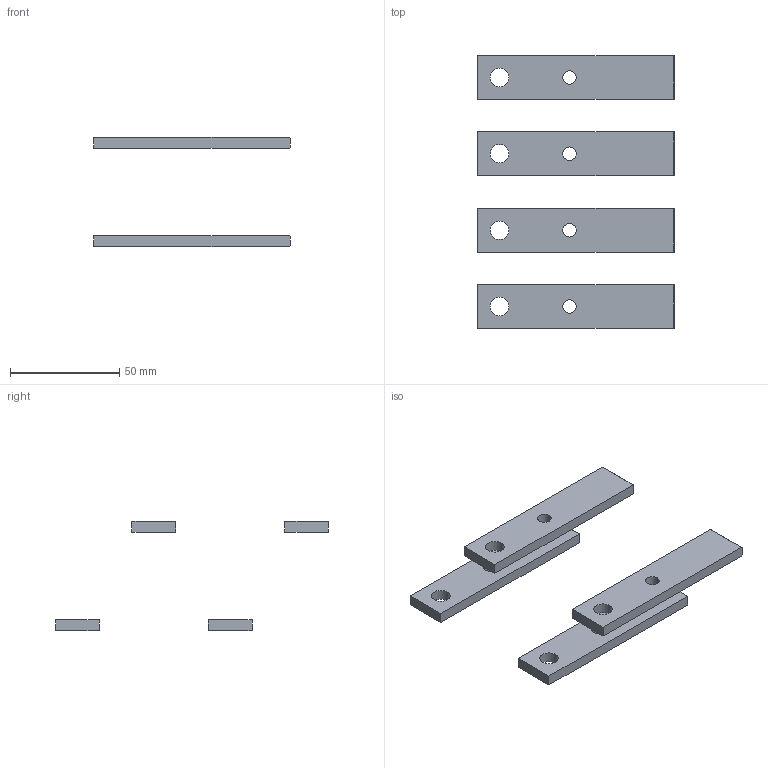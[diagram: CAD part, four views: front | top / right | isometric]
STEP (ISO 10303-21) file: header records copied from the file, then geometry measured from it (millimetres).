
FILE_DESCRIPTION(('CAx-IF Rec.Pracs.---Model Styling and Organization---1.2---2011-12-15','CAx-IF Rec.Pracs.---Geometric and Assembly Validation Properties---4.1---2014-06-16','CAx-IF Rec.Pracs.---PMI Polyline Presentation---2.0---2013-05-24'),'2;1');
FILE_NAME('R5M2WBB4P2-2.stp','2021-05-05T11:53:56+03:00',(''),(''),'STEP Interface 4.4 by CT CoreTechnologie','3D_Evolution4.4 by CT CoreTechnologie','');
FILE_SCHEMA(('AUTOMOTIVE_DESIGN { 1 0 10303 214 1 1 1 1 }'));
Length unit declared in the file: millimetre
Products named in the file (2): R5M2WBB4P2-2; RB.1291.00.00.0_-00
Assembly tree (4 placements, depth 2):
  R5M2WBB4P2-2
    RB.1291.00.00.0_-00  x4
Bounding box: 90 x 125 x 50 mm (x, y, z)
Surface area: 18979.3 mm2 (no closed solid volume)
Topology: 0 solids, 4 shells, 48 faces, 120 edges, 80 vertices
Faces by surface type: plane 32, cylinder 16
Entity records: 503 total; most frequent: DIRECTION 72, CARTESIAN_POINT 67, ORIENTED_EDGE 60, EDGE_CURVE 30, AXIS2_PLACEMENT_3D 25, VECTOR 22, LINE 22, VERTEX_POINT 20
